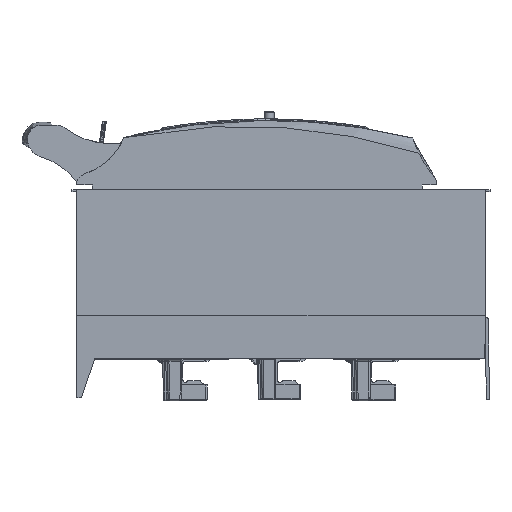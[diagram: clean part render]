
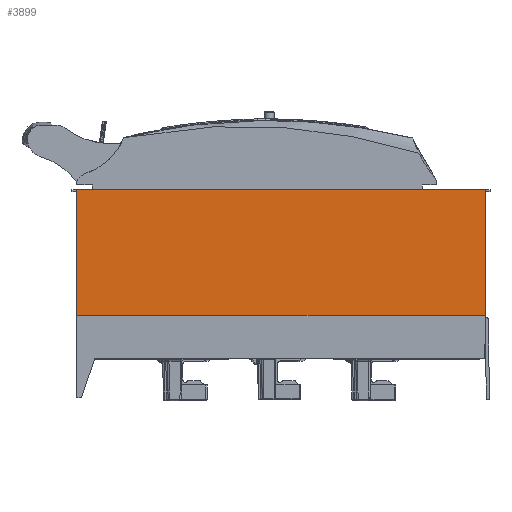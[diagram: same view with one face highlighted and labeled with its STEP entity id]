
A CAD part, front view. The second image highlights one B-rep face of the part: STEP entity #3899.
In plain terms, the highlighted planar face has unit normal (0, -1, 0).
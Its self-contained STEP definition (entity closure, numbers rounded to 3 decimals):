
#3899=ADVANCED_FACE('',(#6855),#5791,.F.);
#5791=PLANE('',#34067);
#6855=FACE_OUTER_BOUND('',#8718,.T.);
#8718=EDGE_LOOP('',(#11422,#11423,#11424,#11425));
#11422=ORIENTED_EDGE('',*,*,#23950,.T.);
#11423=ORIENTED_EDGE('',*,*,#24585,.F.);
#11424=ORIENTED_EDGE('',*,*,#24494,.F.);
#11425=ORIENTED_EDGE('',*,*,#24548,.T.);
#20723=VERTEX_POINT('',#46535);
#20724=VERTEX_POINT('',#46537);
#21256=VERTEX_POINT('',#48441);
#21267=VERTEX_POINT('',#48462);
#23950=EDGE_CURVE('',#20724,#20723,#28985,.T.);
#24494=EDGE_CURVE('',#21267,#21256,#29037,.T.);
#24548=EDGE_CURVE('',#21267,#20724,#29089,.T.);
#24585=EDGE_CURVE('',#21256,#20723,#29116,.T.);
#28985=LINE('',#46536,#31264);
#29037=LINE('',#48463,#31316);
#29089=LINE('',#48576,#31368);
#29116=LINE('',#48642,#31395);
#31264=VECTOR('',#37147,1.);
#31316=VECTOR('',#37961,1.);
#31368=VECTOR('',#38039,1.);
#31395=VECTOR('',#38088,1.);
#34067=AXIS2_PLACEMENT_3D('',#48829,#38227,#38228);
#37147=DIRECTION('',(1.,0.,0.));
#37961=DIRECTION('',(1.,0.,0.));
#38039=DIRECTION('',(0.,0.,-1.));
#38088=DIRECTION('',(0.,0.,-1.));
#38227=DIRECTION('',(0.,1.,0.));
#38228=DIRECTION('',(0.,0.,1.));
#46535=CARTESIAN_POINT('',(129.927,-104.,0.324));
#46536=CARTESIAN_POINT('',(129.927,-104.,0.324));
#46537=CARTESIAN_POINT('',(-130.073,-104.,0.324));
#48441=CARTESIAN_POINT('',(129.927,-104.,80.324));
#48462=CARTESIAN_POINT('',(-130.073,-104.,80.324));
#48463=CARTESIAN_POINT('',(129.927,-104.,80.324));
#48576=CARTESIAN_POINT('',(-130.073,-104.,80.324));
#48642=CARTESIAN_POINT('',(129.927,-104.,80.324));
#48829=CARTESIAN_POINT('',(129.927,-104.,80.324));
